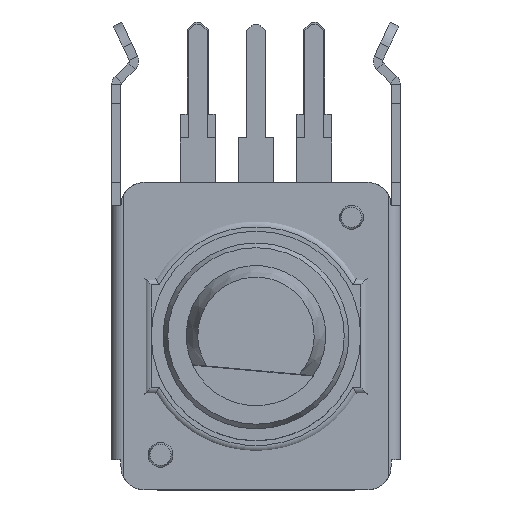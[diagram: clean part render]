
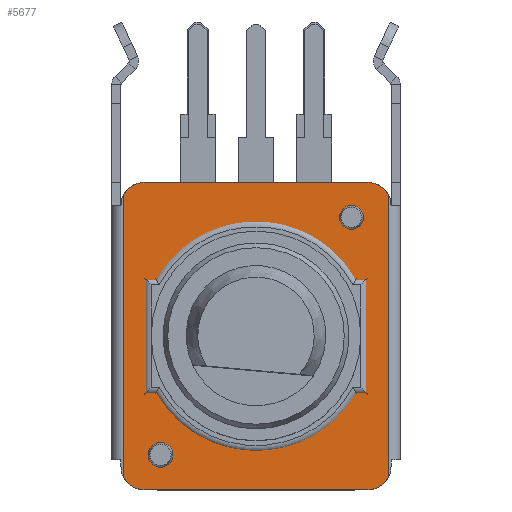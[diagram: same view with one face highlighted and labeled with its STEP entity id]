
A CAD part, top view. The second image highlights one B-rep face of the part: STEP entity #5677.
In plain terms, the highlighted planar face has unit normal (0, 0, 1).
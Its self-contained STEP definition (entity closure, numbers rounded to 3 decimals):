
#446=LINE($,#8925,#1156);
#476=LINE($,#9013,#1186);
#500=LINE($,#9059,#1210);
#521=LINE($,#9109,#1231);
#1156=VECTOR($,#7204,12.072);
#1186=VECTOR($,#7262,9.6);
#1210=VECTOR($,#7308,9.6);
#1231=VECTOR($,#7347,12.072);
#1605=PLANE($,#6123);
#1893=FACE_OUTER_BOUND($,#2204,.T.);
#2204=EDGE_LOOP($,(#4863,#4864,#4865,#4866,#4867,#4868,#4869,#4870));
#2415=CIRCLE($,#6101,1.);
#2416=CIRCLE($,#6105,1.);
#2419=CIRCLE($,#6113,1.);
#2420=CIRCLE($,#6116,1.);
#2813=VERTEX_POINT($,#8917);
#2814=VERTEX_POINT($,#8924);
#2842=VERTEX_POINT($,#8995);
#2844=VERTEX_POINT($,#9003);
#2846=VERTEX_POINT($,#9012);
#2856=VERTEX_POINT($,#9053);
#2857=VERTEX_POINT($,#9057);
#2859=VERTEX_POINT($,#9062);
#3534=EDGE_CURVE($,#2813,#2814,#446,.T.);
#3567=EDGE_CURVE($,#2842,#2844,#2415,.T.);
#3572=EDGE_CURVE($,#2844,#2846,#476,.T.);
#3575=EDGE_CURVE($,#2846,#2813,#2416,.T.);
#3597=EDGE_CURVE($,#2814,#2856,#2419,.T.);
#3600=EDGE_CURVE($,#2856,#2857,#500,.T.);
#3603=EDGE_CURVE($,#2857,#2859,#2420,.T.);
#3626=EDGE_CURVE($,#2859,#2842,#521,.T.);
#4863=ORIENTED_EDGE($,*,*,#3534,.F.);
#4864=ORIENTED_EDGE($,*,*,#3575,.F.);
#4865=ORIENTED_EDGE($,*,*,#3572,.F.);
#4866=ORIENTED_EDGE($,*,*,#3567,.F.);
#4867=ORIENTED_EDGE($,*,*,#3626,.F.);
#4868=ORIENTED_EDGE($,*,*,#3603,.F.);
#4869=ORIENTED_EDGE($,*,*,#3600,.F.);
#4870=ORIENTED_EDGE($,*,*,#3597,.F.);
#5677=ADVANCED_FACE($,(#1893),#1605,.T.);
#6101=AXIS2_PLACEMENT_3D($,#9004,#7252,#7253);
#6105=AXIS2_PLACEMENT_3D($,#9017,#7267,#7268);
#6113=AXIS2_PLACEMENT_3D($,#9054,#7302,#7303);
#6116=AXIS2_PLACEMENT_3D($,#9070,#7312,#7313);
#6123=AXIS2_PLACEMENT_3D($,#9108,#7345,#7346);
#7204=DIRECTION($,(0.,1.,0.));
#7252=DIRECTION('center_axis',(0.,0.,
-1.));
#7253=DIRECTION('ref_axis',(0.707,-0.707,0.));
#7262=DIRECTION($,(-1.,0.,0.));
#7267=DIRECTION('center_axis',(0.,0.,
-1.));
#7268=DIRECTION('ref_axis',(-0.707,-0.707,0.));
#7302=DIRECTION('center_axis',(0.,0.,
-1.));
#7303=DIRECTION('ref_axis',(-0.707,0.707,0.));
#7308=DIRECTION($,(1.,0.,0.));
#7312=DIRECTION('center_axis',(0.,0.,
-1.));
#7313=DIRECTION('ref_axis',(0.707,0.707,0.));
#7345=DIRECTION('center_axis',(0.,0.,
1.));
#7346=DIRECTION('ref_axis',(1.,0.,0.));
#7347=DIRECTION($,(0.,-1.,0.));
#8917=CARTESIAN_POINT('',(-5.7,-6.036,6.6));
#8924=CARTESIAN_POINT('',(-5.7,6.036,6.6));
#8925=CARTESIAN_POINT($,(-5.7,0.,6.6));
#8995=CARTESIAN_POINT('',(5.7,-6.036,6.6));
#9003=CARTESIAN_POINT('',(4.8,-6.6,6.6));
#9004=CARTESIAN_POINT('Origin',(4.8,-5.6,6.6));
#9012=CARTESIAN_POINT('',(-4.8,-6.6,6.6));
#9013=CARTESIAN_POINT($,(5.8,-6.6,6.6));
#9017=CARTESIAN_POINT('Origin',(-4.8,-5.6,6.6));
#9053=CARTESIAN_POINT('',(-4.8,6.6,6.6));
#9054=CARTESIAN_POINT('Origin',(-4.8,5.6,6.6));
#9057=CARTESIAN_POINT('',(4.8,6.6,6.6));
#9059=CARTESIAN_POINT($,(-5.8,6.6,6.6));
#9062=CARTESIAN_POINT('',(5.7,6.036,6.6));
#9070=CARTESIAN_POINT('Origin',(4.8,5.6,6.6));
#9108=CARTESIAN_POINT('Origin',(0.,0.,
6.6));
#9109=CARTESIAN_POINT($,(5.7,0.,6.6));
